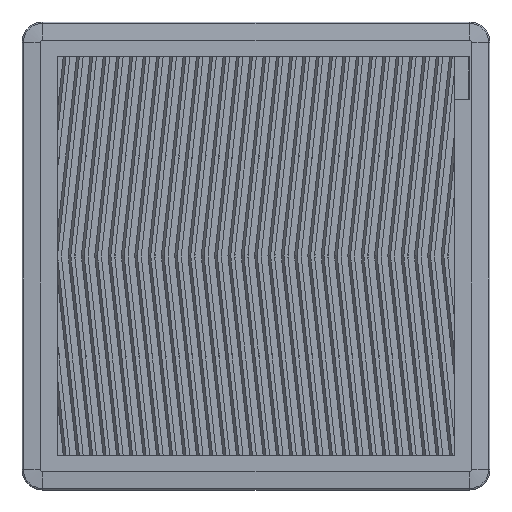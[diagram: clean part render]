
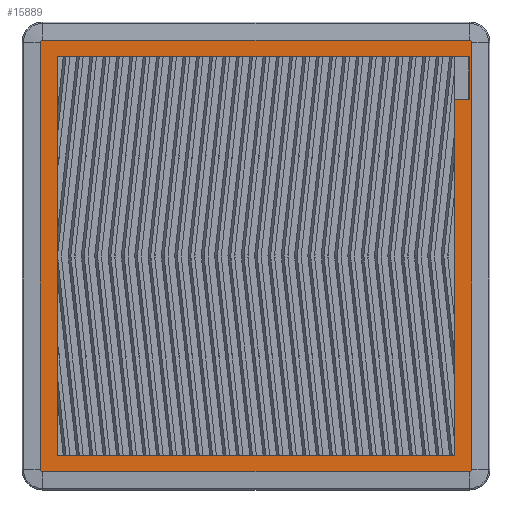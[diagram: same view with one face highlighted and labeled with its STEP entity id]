
A CAD part, top view. The second image highlights one B-rep face of the part: STEP entity #15889.
In plain terms, the highlighted planar face has unit normal (0, 0, 1).
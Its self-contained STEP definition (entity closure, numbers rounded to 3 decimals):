
#940 = ORIENTED_EDGE ( 'NONE', *, *, #9916, .T. ) ;
#1073 = EDGE_CURVE ( 'NONE', #1837, #15197, #42500, .T. ) ;
#1824 = EDGE_CURVE ( 'NONE', #26045, #16957, #42711, .T. ) ;
#1837 = VERTEX_POINT ( 'NONE', #22894 ) ;
#2021 = ORIENTED_EDGE ( 'NONE', *, *, #4652, .T. ) ;
#2150 = DIRECTION ( 'NONE',  ( 1., 0., 0. ) ) ;
#2210 = DIRECTION ( 'NONE',  ( 1., 0., 0. ) ) ;
#2249 = CARTESIAN_POINT ( 'NONE',  ( 108.5, -138., 3. ) ) ;
#2895 = CARTESIAN_POINT ( 'NONE',  ( 149.794, 0., 3. ) ) ;
#3191 = ORIENTED_EDGE ( 'NONE', *, *, #13847, .F. ) ;
#3351 = DIRECTION ( 'NONE',  ( -1., 0., 0. ) ) ;
#4075 = CARTESIAN_POINT ( 'NONE',  ( 108.5, -138., 3. ) ) ;
#4652 = EDGE_CURVE ( 'NONE', #11154, #36252, #43029, .T. ) ;
#4691 = VERTEX_POINT ( 'NONE', #39078 ) ;
#5553 = CARTESIAN_POINT ( 'NONE',  ( -149.794, -148., 3. ) ) ;
#5861 = CARTESIAN_POINT ( 'NONE',  ( -138.5, 138., 3. ) ) ;
#6018 = CARTESIAN_POINT ( 'NONE',  ( 148., -149.794, 3. ) ) ;
#6755 = DIRECTION ( 'NONE',  ( 0., -1., 0. ) ) ;
#6946 = LINE ( 'NONE', #19122, #45320 ) ;
#7615 = ORIENTED_EDGE ( 'NONE', *, *, #26375, .T. ) ;
#9190 = VECTOR ( 'NONE', #2210, 1000. ) ;
#9668 = CIRCLE ( 'NONE', #40919, 1.794 ) ;
#9916 = EDGE_CURVE ( 'NONE', #23909, #24344, #49847, .T. ) ;
#9969 = VERTEX_POINT ( 'NONE', #5553 ) ;
#10570 = ORIENTED_EDGE ( 'NONE', *, *, #26790, .T. ) ;
#11154 = VERTEX_POINT ( 'NONE', #17055 ) ;
#11566 = VECTOR ( 'NONE', #28067, 1000. ) ;
#11828 = DIRECTION ( 'NONE',  ( 1., 0., 0. ) ) ;
#13185 = EDGE_CURVE ( 'NONE', #16166, #30670, #38609, .T. ) ;
#13818 = LINE ( 'NONE', #5861, #46747 ) ;
#13847 = EDGE_CURVE ( 'NONE', #16957, #45958, #15554, .T. ) ;
#14183 = DIRECTION ( 'NONE',  ( 0., 1., 0. ) ) ;
#14766 = CARTESIAN_POINT ( 'NONE',  ( -148., 149.794, 3. ) ) ;
#14833 = CARTESIAN_POINT ( 'NONE',  ( 108.5, -148., 3. ) ) ;
#15166 = DIRECTION ( 'NONE',  ( 0., 0., 1. ) ) ;
#15197 = VERTEX_POINT ( 'NONE', #45918 ) ;
#15237 = CIRCLE ( 'NONE', #32965, 1.794 ) ;
#15374 = CARTESIAN_POINT ( 'NONE',  ( -149.794, 0., 3. ) ) ;
#15554 = LINE ( 'NONE', #31672, #18723 ) ;
#15889 = ADVANCED_FACE ( 'NONE', ( #16212, #35782 ), #51395, .T. ) ;
#16166 = VERTEX_POINT ( 'NONE', #22510 ) ;
#16212 = FACE_BOUND ( 'NONE', #24843, .T. ) ;
#16483 = DIRECTION ( 'NONE',  ( -1., 0., 0. ) ) ;
#16832 = AXIS2_PLACEMENT_3D ( 'NONE', #31092, #42478, #14183 ) ;
#16957 = VERTEX_POINT ( 'NONE', #14833 ) ;
#17055 = CARTESIAN_POINT ( 'NONE',  ( 148., 149.794, 3. ) ) ;
#17157 = ORIENTED_EDGE ( 'NONE', *, *, #50682, .T. ) ;
#17563 = EDGE_CURVE ( 'NONE', #30670, #11154, #37442, .T. ) ;
#18718 = VECTOR ( 'NONE', #34295, 1000. ) ;
#18723 = VECTOR ( 'NONE', #11828, 1000. ) ;
#18746 = DIRECTION ( 'NONE',  ( 0., 0., 1. ) ) ;
#18830 = DIRECTION ( 'NONE',  ( 0., -1., 0. ) ) ;
#19122 = CARTESIAN_POINT ( 'NONE',  ( 138.5, -138.5, 3. ) ) ;
#19360 = ORIENTED_EDGE ( 'NONE', *, *, #1073, .T. ) ;
#19551 = VECTOR ( 'NONE', #42319, 1000. ) ;
#20975 = DIRECTION ( 'NONE',  ( 0., 0., 1. ) ) ;
#22510 = CARTESIAN_POINT ( 'NONE',  ( 149.794, -148., 3. ) ) ;
#22894 = CARTESIAN_POINT ( 'NONE',  ( -138.5, -138., 3. ) ) ;
#23228 = DIRECTION ( 'NONE',  ( -1., 0., 0. ) ) ;
#23377 = ORIENTED_EDGE ( 'NONE', *, *, #17563, .T. ) ;
#23789 = VERTEX_POINT ( 'NONE', #41536 ) ;
#23909 = VERTEX_POINT ( 'NONE', #26701 ) ;
#24344 = VERTEX_POINT ( 'NONE', #6018 ) ;
#24608 = ORIENTED_EDGE ( 'NONE', *, *, #28905, .T. ) ;
#24843 = EDGE_LOOP ( 'NONE', ( #48962, #7615, #19360, #17157, #24954, #3191 ) ) ;
#24954 = ORIENTED_EDGE ( 'NONE', *, *, #25134, .F. ) ;
#25134 = EDGE_CURVE ( 'NONE', #45958, #4691, #6946, .T. ) ;
#25593 = AXIS2_PLACEMENT_3D ( 'NONE', #27843, #20975, #16483 ) ;
#26045 = VERTEX_POINT ( 'NONE', #4075 ) ;
#26375 = EDGE_CURVE ( 'NONE', #26045, #1837, #51887, .T. ) ;
#26701 = CARTESIAN_POINT ( 'NONE',  ( -148., -149.794, 3. ) ) ;
#26790 = EDGE_CURVE ( 'NONE', #23789, #9969, #51613, .T. ) ;
#27843 = CARTESIAN_POINT ( 'NONE',  ( 148., 148., 3. ) ) ;
#28067 = DIRECTION ( 'NONE',  ( -1., 0., 0. ) ) ;
#28905 = EDGE_CURVE ( 'NONE', #9969, #23909, #44675, .T. ) ;
#30495 = EDGE_CURVE ( 'NONE', #36252, #23789, #15237, .T. ) ;
#30623 = AXIS2_PLACEMENT_3D ( 'NONE', #32332, #15166, #39226 ) ;
#30670 = VERTEX_POINT ( 'NONE', #31946 ) ;
#31092 = CARTESIAN_POINT ( 'NONE',  ( -148., -148., 3. ) ) ;
#31500 = CARTESIAN_POINT ( 'NONE',  ( 138.5, -148., 3. ) ) ;
#31672 = CARTESIAN_POINT ( 'NONE',  ( 108.5, -148., 3. ) ) ;
#31769 = CARTESIAN_POINT ( 'NONE',  ( 0., -138., 3. ) ) ;
#31946 = CARTESIAN_POINT ( 'NONE',  ( 149.794, 148., 3. ) ) ;
#32332 = CARTESIAN_POINT ( 'NONE',  ( 0., 0., 3. ) ) ;
#32965 = AXIS2_PLACEMENT_3D ( 'NONE', #42790, #18746, #23228 ) ;
#33343 = ORIENTED_EDGE ( 'NONE', *, *, #30495, .T. ) ;
#34295 = DIRECTION ( 'NONE',  ( 0., 1., 0. ) ) ;
#35739 = DIRECTION ( 'NONE',  ( 0., 1., 0. ) ) ;
#35782 = FACE_OUTER_BOUND ( 'NONE', #39295, .T. ) ;
#36252 = VERTEX_POINT ( 'NONE', #14766 ) ;
#37442 = CIRCLE ( 'NONE', #25593, 1.794 ) ;
#37797 = VECTOR ( 'NONE', #18830, 1000. ) ;
#38609 = LINE ( 'NONE', #2895, #19551 ) ;
#39078 = CARTESIAN_POINT ( 'NONE',  ( 138.5, 138., 3. ) ) ;
#39226 = DIRECTION ( 'NONE',  ( 1., 0., 0. ) ) ;
#39295 = EDGE_LOOP ( 'NONE', ( #42301, #40306, #23377, #2021, #33343, #10570, #24608, #940 ) ) ;
#40306 = ORIENTED_EDGE ( 'NONE', *, *, #13185, .T. ) ;
#40817 = VECTOR ( 'NONE', #3351, 1000. ) ;
#40919 = AXIS2_PLACEMENT_3D ( 'NONE', #43673, #51625, #35739 ) ;
#41536 = CARTESIAN_POINT ( 'NONE',  ( -149.794, 148., 3. ) ) ;
#41905 = CARTESIAN_POINT ( 'NONE',  ( 0., -149.794, 3. ) ) ;
#42238 = CARTESIAN_POINT ( 'NONE',  ( -138.5, 0., 3. ) ) ;
#42301 = ORIENTED_EDGE ( 'NONE', *, *, #51908, .T. ) ;
#42319 = DIRECTION ( 'NONE',  ( 0., 1., 0. ) ) ;
#42478 = DIRECTION ( 'NONE',  ( 0., 0., 1. ) ) ;
#42500 = LINE ( 'NONE', #42238, #18718 ) ;
#42711 = LINE ( 'NONE', #2249, #50823 ) ;
#42790 = CARTESIAN_POINT ( 'NONE',  ( -148., 148., 3. ) ) ;
#43029 = LINE ( 'NONE', #48323, #40817 ) ;
#43673 = CARTESIAN_POINT ( 'NONE',  ( 148., -148., 3. ) ) ;
#44675 = CIRCLE ( 'NONE', #16832, 1.794 ) ;
#45320 = VECTOR ( 'NONE', #51379, 1000. ) ;
#45918 = CARTESIAN_POINT ( 'NONE',  ( -138.5, 138., 3. ) ) ;
#45958 = VERTEX_POINT ( 'NONE', #31500 ) ;
#46747 = VECTOR ( 'NONE', #2150, 1000. ) ;
#48323 = CARTESIAN_POINT ( 'NONE',  ( 0., 149.794, 3. ) ) ;
#48962 = ORIENTED_EDGE ( 'NONE', *, *, #1824, .F. ) ;
#49847 = LINE ( 'NONE', #41905, #9190 ) ;
#50682 = EDGE_CURVE ( 'NONE', #15197, #4691, #13818, .T. ) ;
#50823 = VECTOR ( 'NONE', #6755, 1000. ) ;
#51379 = DIRECTION ( 'NONE',  ( 0., 1., 0. ) ) ;
#51395 = PLANE ( 'NONE',  #30623 ) ;
#51613 = LINE ( 'NONE', #15374, #37797 ) ;
#51625 = DIRECTION ( 'NONE',  ( 0., 0., 1. ) ) ;
#51887 = LINE ( 'NONE', #31769, #11566 ) ;
#51908 = EDGE_CURVE ( 'NONE', #24344, #16166, #9668, .T. ) ;
